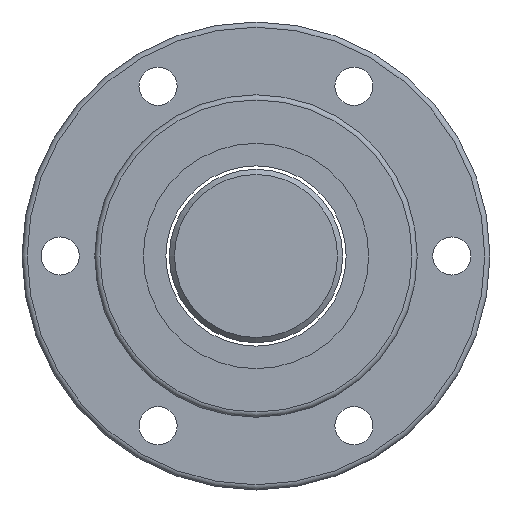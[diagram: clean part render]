
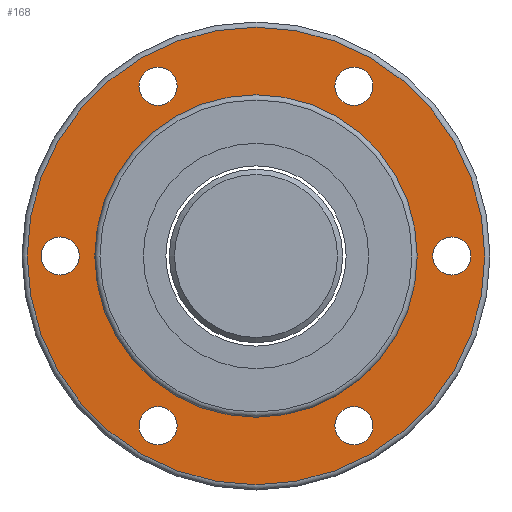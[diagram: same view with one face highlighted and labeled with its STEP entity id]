
A CAD part, left-side view. The second image highlights one B-rep face of the part: STEP entity #168.
In plain terms, the highlighted planar face has unit normal (-1, 0, 0).
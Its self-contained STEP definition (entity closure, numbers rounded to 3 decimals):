
#118=PLANE('',#694);
#137=FACE_OUTER_BOUND('',#347,.T.);
#168=ADVANCED_FACE('',(#250,#251,#252,#253,#254,#255,#137,#256),#118,.F.);
#250=FACE_BOUND('',#341,.T.);
#251=FACE_BOUND('',#342,.T.);
#252=FACE_BOUND('',#343,.T.);
#253=FACE_BOUND('',#344,.T.);
#254=FACE_BOUND('',#345,.T.);
#255=FACE_BOUND('',#346,.T.);
#256=FACE_BOUND('',#348,.T.);
#341=EDGE_LOOP('',(#439));
#342=EDGE_LOOP('',(#440));
#343=EDGE_LOOP('',(#441));
#344=EDGE_LOOP('',(#442));
#345=EDGE_LOOP('',(#443));
#346=EDGE_LOOP('',(#444));
#347=EDGE_LOOP('',(#445));
#348=EDGE_LOOP('',(#446));
#439=ORIENTED_EDGE('',*,*,#564,.T.);
#440=ORIENTED_EDGE('',*,*,#565,.T.);
#441=ORIENTED_EDGE('',*,*,#566,.T.);
#442=ORIENTED_EDGE('',*,*,#567,.T.);
#443=ORIENTED_EDGE('',*,*,#568,.T.);
#444=ORIENTED_EDGE('',*,*,#569,.T.);
#445=ORIENTED_EDGE('',*,*,#563,.F.);
#446=ORIENTED_EDGE('',*,*,#570,.T.);
#514=VERTEX_POINT('',#997);
#515=VERTEX_POINT('',#1000);
#516=VERTEX_POINT('',#1002);
#517=VERTEX_POINT('',#1004);
#518=VERTEX_POINT('',#1006);
#519=VERTEX_POINT('',#1008);
#520=VERTEX_POINT('',#1010);
#521=VERTEX_POINT('',#1012);
#563=EDGE_CURVE('',#514,#514,#612,.T.);
#564=EDGE_CURVE('',#515,#515,#613,.T.);
#565=EDGE_CURVE('',#516,#516,#614,.T.);
#566=EDGE_CURVE('',#517,#517,#615,.T.);
#567=EDGE_CURVE('',#518,#518,#616,.T.);
#568=EDGE_CURVE('',#519,#519,#617,.T.);
#569=EDGE_CURVE('',#520,#520,#618,.T.);
#570=EDGE_CURVE('',#521,#521,#619,.T.);
#612=CIRCLE('',#685,66.);
#613=CIRCLE('',#687,5.5);
#614=CIRCLE('',#688,5.5);
#615=CIRCLE('',#689,5.5);
#616=CIRCLE('',#690,5.5);
#617=CIRCLE('',#691,5.5);
#618=CIRCLE('',#692,5.5);
#619=CIRCLE('',#693,46.5);
#685=AXIS2_PLACEMENT_3D('',#996,#832,#833);
#687=AXIS2_PLACEMENT_3D('',#999,#836,#837);
#688=AXIS2_PLACEMENT_3D('',#1001,#838,#839);
#689=AXIS2_PLACEMENT_3D('',#1003,#840,#841);
#690=AXIS2_PLACEMENT_3D('',#1005,#842,#843);
#691=AXIS2_PLACEMENT_3D('',#1007,#844,#845);
#692=AXIS2_PLACEMENT_3D('',#1009,#846,#847);
#693=AXIS2_PLACEMENT_3D('',#1011,#848,#849);
#694=AXIS2_PLACEMENT_3D('',#1013,#850,#851);
#832=DIRECTION('',(1.,0.,0.));
#833=DIRECTION('',(0.,1.,0.));
#836=DIRECTION('',(1.,0.,0.));
#837=DIRECTION('',(0.,1.,0.));
#838=DIRECTION('',(1.,0.,0.));
#839=DIRECTION('',(0.,1.,0.));
#840=DIRECTION('',(1.,0.,0.));
#841=DIRECTION('',(0.,1.,0.));
#842=DIRECTION('',(1.,0.,0.));
#843=DIRECTION('',(0.,1.,0.));
#844=DIRECTION('',(1.,0.,0.));
#845=DIRECTION('',(0.,1.,0.));
#846=DIRECTION('',(1.,0.,0.));
#847=DIRECTION('',(0.,1.,0.));
#848=DIRECTION('',(1.,0.,0.));
#849=DIRECTION('',(0.,1.,0.));
#850=DIRECTION('',(1.,0.,0.));
#851=DIRECTION('',(0.,1.,0.));
#996=CARTESIAN_POINT('',(-33.,0.,0.));
#997=CARTESIAN_POINT('',(-33.,66.,0.));
#999=CARTESIAN_POINT('',(-33.,28.25,-48.93));
#1000=CARTESIAN_POINT('',(-33.,33.75,-48.93));
#1001=CARTESIAN_POINT('',(-33.,-28.25,-48.93));
#1002=CARTESIAN_POINT('',(-33.,-22.75,-48.93));
#1003=CARTESIAN_POINT('',(-33.,-56.5,0.));
#1004=CARTESIAN_POINT('',(-33.,-51.,0.));
#1005=CARTESIAN_POINT('',(-33.,-28.25,48.93));
#1006=CARTESIAN_POINT('',(-33.,-22.75,48.93));
#1007=CARTESIAN_POINT('',(-33.,28.25,48.93));
#1008=CARTESIAN_POINT('',(-33.,33.75,48.93));
#1009=CARTESIAN_POINT('',(-33.,56.5,0.));
#1010=CARTESIAN_POINT('',(-33.,62.,0.));
#1011=CARTESIAN_POINT('',(-33.,0.,0.));
#1012=CARTESIAN_POINT('',(-33.,46.5,0.));
#1013=CARTESIAN_POINT('',(-33.,56.25,0.));
